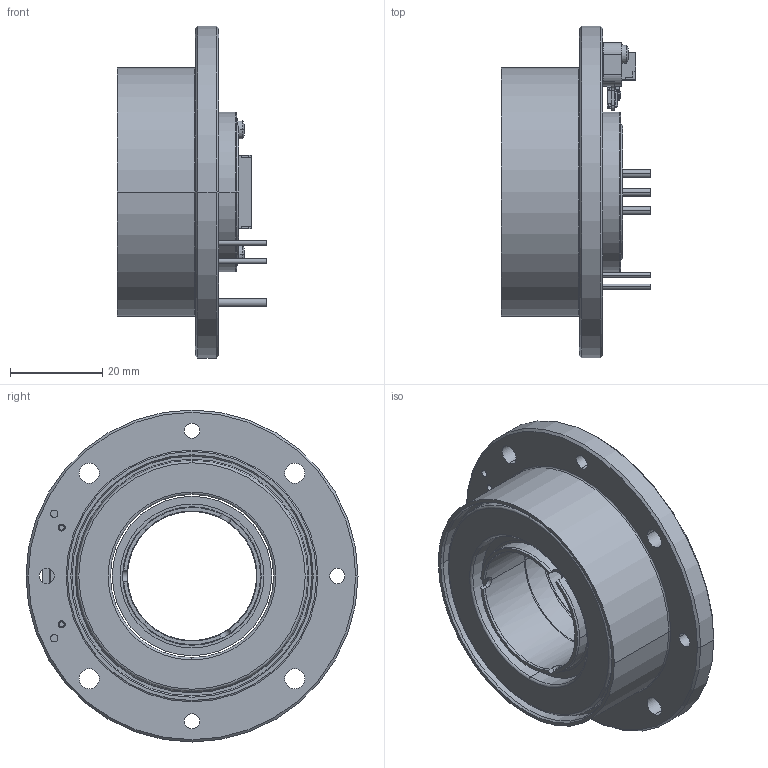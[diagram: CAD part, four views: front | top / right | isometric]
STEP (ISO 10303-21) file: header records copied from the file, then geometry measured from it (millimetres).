
FILE_DESCRIPTION((''),'2;1');
FILE_NAME('MASSBILD_STECKER_RADI_SW0001','2022-06-23T16:30:10',('mmagvisi'),(''),'CREO PARAMETRIC BY PTC INC, 2020342','CREO PARAMETRIC BY PTC INC, 2020342','');
FILE_SCHEMA(('CONFIG_CONTROL_DESIGN','SHAPE_APPEARANCE_LAYERS_GROUPS'));
Length unit declared in the file: millimetre
Products named in the file (1): MASSBILD_STECKER_RADI_SW0001
Bounding box: 32.5 x 72 x 72 mm (x, y, z)
Volume: 41773.3 mm3; surface area: 24231.2 mm2
Topology: 4 solids, 4 shells, 2427 faces, 6737 edges, 4120 vertices
Faces by surface type: plane 1360, cylinder 764, sphere 228, cone 60, torus 14, bspline 1
Entity records: 106957 total; most frequent: CARTESIAN_POINT 26064, ORIENTED_EDGE 13032, DIRECTION 12339, PRESENTATION_STYLE_ASSIGNMENT 6520, STYLED_ITEM 6520, CURVE_STYLE 6516, EDGE_CURVE 6516, VECTOR 4631
